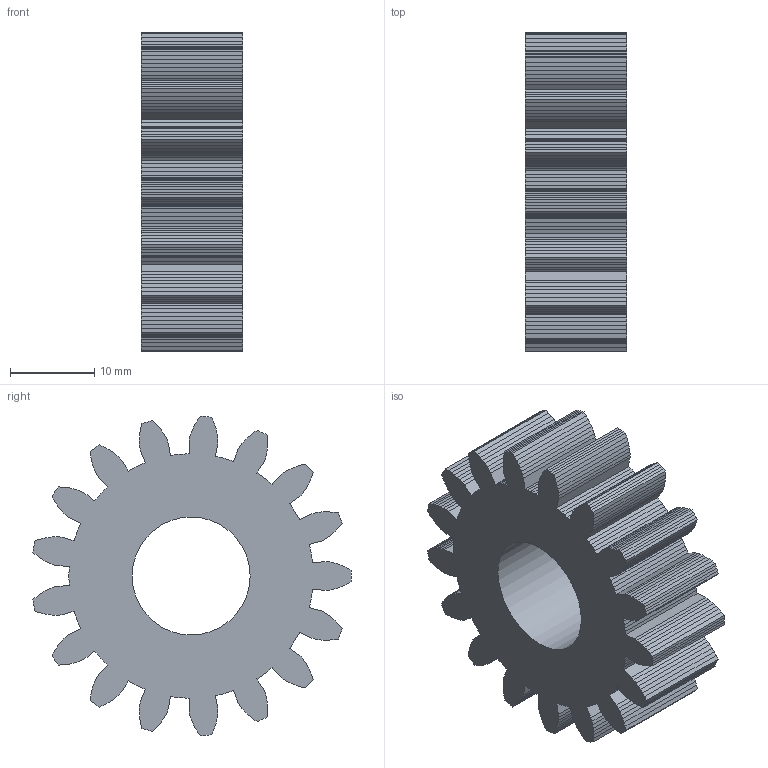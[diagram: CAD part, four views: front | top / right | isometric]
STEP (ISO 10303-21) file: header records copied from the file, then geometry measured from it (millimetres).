
FILE_DESCRIPTION(('Open CASCADE Model'),'2;1');
FILE_NAME('Open CASCADE Shape Model','2026-10-16T02:10:56',('Author'),( 'Open CASCADE'),'Open CASCADE STEP processor 7.9','Open CASCADE 7.9' ,'Unknown');
FILE_SCHEMA(('AUTOMOTIVE_DESIGN { 1 0 10303 214 1 1 1 1 }'));
Length unit declared in the file: millimetre
Products named in the file (1): Open CASCADE STEP translator 7.9 14
Bounding box: 12 x 37.79 x 37.94 mm (x, y, z)
Volume: 8717.1 mm3; surface area: 4666.5 mm2
Topology: 1 solids, 1 shells, 428 faces, 1278 edges, 852 vertices
Faces by surface type: plane 427, cylinder 1
Full cylindrical faces by diameter (mm): 14 x1
Entity records: 30718 total; most frequent: CARTESIAN_POINT 5127, DIRECTION 4692, LINE 3830, VECTOR 3830, ORIENTED_EDGE 2556, PCURVE 2556, DEFINITIONAL_REPRESENTATION 2556, EDGE_CURVE 1278
